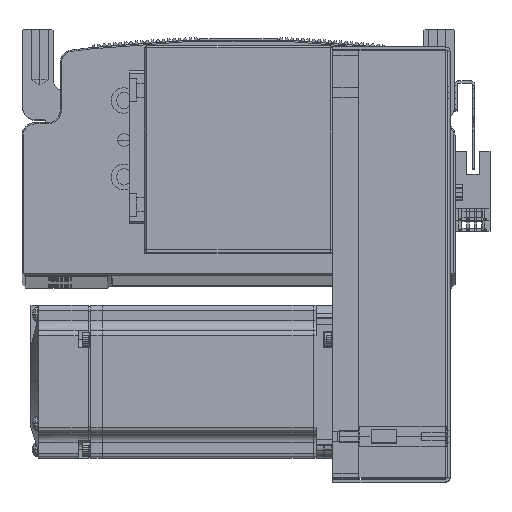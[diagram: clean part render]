
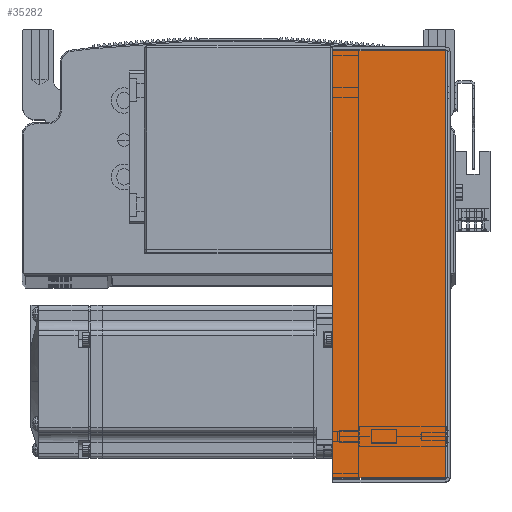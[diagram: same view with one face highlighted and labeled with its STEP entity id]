
A CAD part, top view. The second image highlights one B-rep face of the part: STEP entity #35282.
In plain terms, the highlighted planar face has unit normal (0, 0, 1) as drawn and (0, 0, -1) by its records, which use the part's own axes.
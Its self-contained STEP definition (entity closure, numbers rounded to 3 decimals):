
#20060 = VERTEX_POINT ( 'NONE', #88561 ) ;
#20092 = VERTEX_POINT ( 'NONE', #88532 ) ;
#20120 = VERTEX_POINT ( 'NONE', #88589 ) ;
#20125 = VERTEX_POINT ( 'NONE', #88606 ) ;
#23180 = ORIENTED_EDGE ( 'NONE', *, *, #61283, .T. ) ;
#23228 = ORIENTED_EDGE ( 'NONE', *, *, #61351, .F. ) ;
#23261 = ORIENTED_EDGE ( 'NONE', *, *, #61255, .F. ) ;
#23307 = ORIENTED_EDGE ( 'NONE', *, *, #61245, .T. ) ;
#33090 = VECTOR ( 'NONE', #46361, 1000. ) ;
#33144 = VECTOR ( 'NONE', #48312, 1000. ) ;
#33153 = LINE ( 'NONE', #46413, #33090 ) ;
#33199 = LINE ( 'NONE', #48321, #33144 ) ;
#33274 = VECTOR ( 'NONE', #46664, 1000. ) ;
#33321 = LINE ( 'NONE', #46607, #33274 ) ;
#33416 = VECTOR ( 'NONE', #47592, 1000. ) ;
#33507 = LINE ( 'NONE', #47582, #33416 ) ;
#35282 = ADVANCED_FACE ( 'NONE', ( #39372 ), #80872, .F. ) ;
#36363 = AXIS2_PLACEMENT_3D ( 'NONE', #80837, #80840, #80881 ) ;
#39372 = FACE_OUTER_BOUND ( 'NONE', #77670, .T. ) ;
#46361 = DIRECTION ( 'NONE',  ( 1., 0., 0. ) ) ;
#46413 = CARTESIAN_POINT ( 'NONE',  ( 0., 0.737, -40.5 ) ) ;
#46607 = CARTESIAN_POINT ( 'NONE',  ( 84.5, 45., -40.5 ) ) ;
#46664 = DIRECTION ( 'NONE',  ( 1., 0., 0. ) ) ;
#47582 = CARTESIAN_POINT ( 'NONE',  ( 83.793, 0., -40.5 ) ) ;
#47592 = DIRECTION ( 'NONE',  ( 0., 1., 0. ) ) ;
#48312 = DIRECTION ( 'NONE',  ( 0., 1., 0. ) ) ;
#48321 = CARTESIAN_POINT ( 'NONE',  ( -83.793, 0., -40.5 ) ) ;
#61245 = EDGE_CURVE ( 'NONE', #20060, #20125, #33199, .T. ) ;
#61255 = EDGE_CURVE ( 'NONE', #20060, #20120, #33153, .T. ) ;
#61283 = EDGE_CURVE ( 'NONE', #20125, #20092, #33321, .T. ) ;
#61351 = EDGE_CURVE ( 'NONE', #20120, #20092, #33507, .T. ) ;
#77670 = EDGE_LOOP ( 'NONE', ( #23261, #23307, #23180, #23228 ) ) ;
#80837 = CARTESIAN_POINT ( 'NONE',  ( 0., 0., -40.5 ) ) ;
#80840 = DIRECTION ( 'NONE',  ( 0., 0., 1. ) ) ;
#80872 = PLANE ( 'NONE',  #36363 ) ;
#80881 = DIRECTION ( 'NONE',  ( 0., -1., 0. ) ) ;
#88532 = CARTESIAN_POINT ( 'NONE',  ( 83.793, 45., -40.5 ) ) ;
#88561 = CARTESIAN_POINT ( 'NONE',  ( -83.793, 0.737, -40.5 ) ) ;
#88589 = CARTESIAN_POINT ( 'NONE',  ( 83.793, 0.737, -40.5 ) ) ;
#88606 = CARTESIAN_POINT ( 'NONE',  ( -83.793, 45., -40.5 ) ) ;
